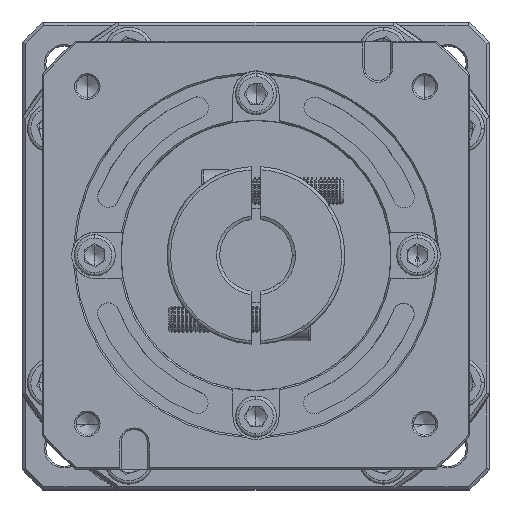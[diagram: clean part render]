
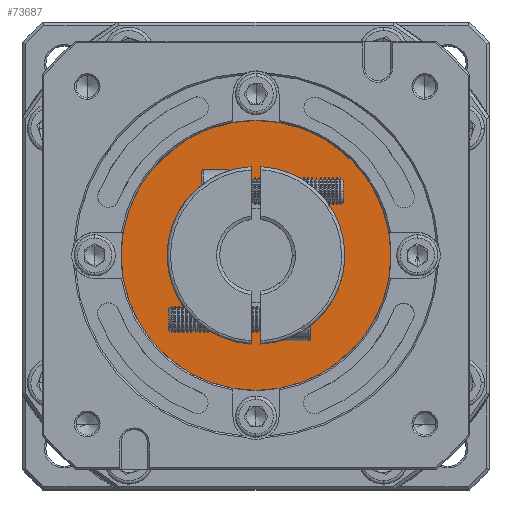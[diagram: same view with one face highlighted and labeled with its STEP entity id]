
A CAD part, top view. The second image highlights one B-rep face of the part: STEP entity #73687.
In plain terms, the highlighted planar face has unit normal (0, 0, 1).
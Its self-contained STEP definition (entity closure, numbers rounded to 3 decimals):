
#1948 = CARTESIAN_POINT ( 'NONE',  ( -87.738, 87.014, -62.999 ) ) ;
#4800 = DIRECTION ( 'NONE',  ( 0., 0., -1. ) ) ;
#6043 = DIRECTION ( 'NONE',  ( 0., 0., 1. ) ) ;
#6514 = PLANE ( 'NONE',  #65541 ) ;
#6957 = FACE_BOUND ( 'NONE', #117411, .T. ) ;
#20049 = CIRCLE ( 'NONE', #100248, 41. ) ;
#20175 = CARTESIAN_POINT ( 'NONE',  ( -87.738, 107.014, -62.999 ) ) ;
#21618 = CARTESIAN_POINT ( 'NONE',  ( -87.738, 87.014, -62.999 ) ) ;
#22336 = ORIENTED_EDGE ( 'NONE', *, *, #129367, .T. ) ;
#24129 = DIRECTION ( 'NONE',  ( 0., 1., 0. ) ) ;
#44764 = DIRECTION ( 'NONE',  ( 0., 0., 1. ) ) ;
#51547 = EDGE_LOOP ( 'NONE', ( #87452, #110515 ) ) ;
#55442 = AXIS2_PLACEMENT_3D ( 'NONE', #1948, #122497, #24129 ) ;
#63550 = CIRCLE ( 'NONE', #94508, 41. ) ;
#65453 = CIRCLE ( 'NONE', #108561, 20. ) ;
#65541 = AXIS2_PLACEMENT_3D ( 'NONE', #139458, #6043, #84040 ) ;
#71431 = VERTEX_POINT ( 'NONE', #95551 ) ;
#72589 = CARTESIAN_POINT ( 'NONE',  ( -87.738, 128.014, -62.999 ) ) ;
#73687 = ADVANCED_FACE ( 'NONE', ( #126117, #6957 ), #6514, .T. ) ;
#75968 = EDGE_CURVE ( 'NONE', #77242, #93207, #20049, .T. ) ;
#77242 = VERTEX_POINT ( 'NONE', #116734 ) ;
#78943 = DIRECTION ( 'NONE',  ( 0., 1., 0. ) ) ;
#84040 = DIRECTION ( 'NONE',  ( 0., 1., 0. ) ) ;
#87452 = ORIENTED_EDGE ( 'NONE', *, *, #124313, .T. ) ;
#87587 = CIRCLE ( 'NONE', #55442, 20. ) ;
#93207 = VERTEX_POINT ( 'NONE', #72589 ) ;
#94508 = AXIS2_PLACEMENT_3D ( 'NONE', #21618, #44764, #98758 ) ;
#95551 = CARTESIAN_POINT ( 'NONE',  ( -87.738, 67.014, -62.999 ) ) ;
#98758 = DIRECTION ( 'NONE',  ( 0., 1., 0. ) ) ;
#100248 = AXIS2_PLACEMENT_3D ( 'NONE', #123404, #134849, #78943 ) ;
#107563 = ORIENTED_EDGE ( 'NONE', *, *, #131118, .T. ) ;
#108561 = AXIS2_PLACEMENT_3D ( 'NONE', #136815, #4800, #126305 ) ;
#110515 = ORIENTED_EDGE ( 'NONE', *, *, #75968, .T. ) ;
#116734 = CARTESIAN_POINT ( 'NONE',  ( -87.738, 46.014, -62.999 ) ) ;
#117411 = EDGE_LOOP ( 'NONE', ( #22336, #107563 ) ) ;
#122497 = DIRECTION ( 'NONE',  ( 0., 0., -1. ) ) ;
#123404 = CARTESIAN_POINT ( 'NONE',  ( -87.738, 87.014, -62.999 ) ) ;
#124313 = EDGE_CURVE ( 'NONE', #93207, #77242, #63550, .T. ) ;
#126117 = FACE_OUTER_BOUND ( 'NONE', #51547, .T. ) ;
#126305 = DIRECTION ( 'NONE',  ( 0., 1., 0. ) ) ;
#129367 = EDGE_CURVE ( 'NONE', #136610, #71431, #87587, .T. ) ;
#131118 = EDGE_CURVE ( 'NONE', #71431, #136610, #65453, .T. ) ;
#134849 = DIRECTION ( 'NONE',  ( 0., 0., 1. ) ) ;
#136610 = VERTEX_POINT ( 'NONE', #20175 ) ;
#136815 = CARTESIAN_POINT ( 'NONE',  ( -87.738, 87.014, -62.999 ) ) ;
#139458 = CARTESIAN_POINT ( 'NONE',  ( -87.738, 87.014, -62.999 ) ) ;
